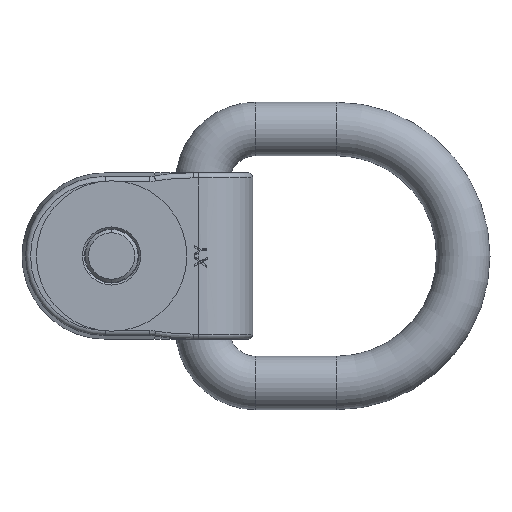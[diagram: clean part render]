
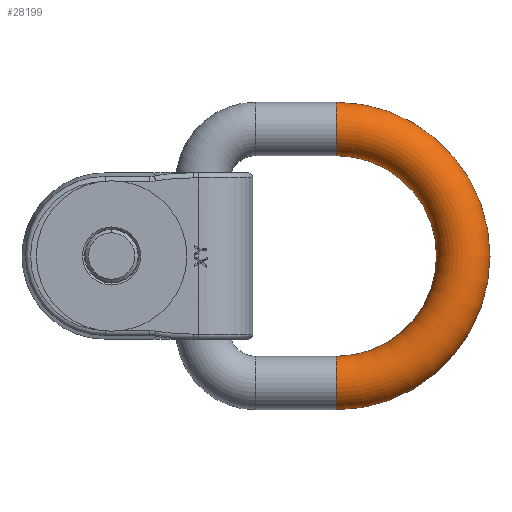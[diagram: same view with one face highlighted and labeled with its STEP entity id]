
A CAD part, front view. The second image highlights one B-rep face of the part: STEP entity #28199.
In plain terms, the highlighted toroidal (fillet/blend) face has major radius 38 mm and minor radius 8 mm.
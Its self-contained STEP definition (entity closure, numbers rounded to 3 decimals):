
#511 = DIRECTION ( 'NONE',  ( -1., 0., 0. ) ) ;
#927 = VERTEX_POINT ( 'NONE', #24760 ) ;
#1195 = CARTESIAN_POINT ( 'NONE',  ( 38., 32., 0. ) ) ;
#1374 = CIRCLE ( 'NONE', #11166, 8. ) ;
#3759 = CARTESIAN_POINT ( 'NONE',  ( 46., 32., 0. ) ) ;
#5263 = DIRECTION ( 'NONE',  ( 0., 0., -1. ) ) ;
#5721 = AXIS2_PLACEMENT_3D ( 'NONE', #39615, #5263, #11763 ) ;
#7923 = CARTESIAN_POINT ( 'NONE',  ( -38., 32., 0. ) ) ;
#8202 = EDGE_CURVE ( 'NONE', #38669, #927, #18058, .T. ) ;
#10727 = DIRECTION ( 'NONE',  ( 0., 0., -1. ) ) ;
#11166 = AXIS2_PLACEMENT_3D ( 'NONE', #1195, #23573, #26643 ) ;
#11763 = DIRECTION ( 'NONE',  ( -1., 0., 0. ) ) ;
#12144 = CARTESIAN_POINT ( 'NONE',  ( 0., 32., 0. ) ) ;
#13470 = ORIENTED_EDGE ( 'NONE', *, *, #28999, .F. ) ;
#14290 = CARTESIAN_POINT ( 'NONE',  ( -30., 32., 0. ) ) ;
#16368 = VERTEX_POINT ( 'NONE', #3759 ) ;
#17675 = DIRECTION ( 'NONE',  ( 0., -1., 0. ) ) ;
#18058 = CIRCLE ( 'NONE', #5721, 30. ) ;
#18260 = ORIENTED_EDGE ( 'NONE', *, *, #8202, .T. ) ;
#21378 = ORIENTED_EDGE ( 'NONE', *, *, #36042, .F. ) ;
#21490 = AXIS2_PLACEMENT_3D ( 'NONE', #12144, #40194, #511 ) ;
#23573 = DIRECTION ( 'NONE',  ( 0., 1., 0. ) ) ;
#24760 = CARTESIAN_POINT ( 'NONE',  ( 30., 32., 0. ) ) ;
#25406 = EDGE_LOOP ( 'NONE', ( #21378, #13470, #18260, #39822 ) ) ;
#25424 = CIRCLE ( 'NONE', #21490, 46. ) ;
#26518 = VERTEX_POINT ( 'NONE', #34835 ) ;
#26643 = DIRECTION ( 'NONE',  ( 0., 0., -1. ) ) ;
#26943 = EDGE_CURVE ( 'NONE', #927, #16368, #1374, .T. ) ;
#27016 = DIRECTION ( 'NONE',  ( 0., 0., -1. ) ) ;
#28199 = ADVANCED_FACE ( 'NONE', ( #35339 ), #33172, .T. ) ;
#28999 = EDGE_CURVE ( 'NONE', #38669, #26518, #29302, .T. ) ;
#29219 = CARTESIAN_POINT ( 'NONE',  ( 0., 32., 0. ) ) ;
#29302 = CIRCLE ( 'NONE', #39666, 8. ) ;
#33172 = TOROIDAL_SURFACE ( 'NONE', #35203, 38., 8. ) ;
#34835 = CARTESIAN_POINT ( 'NONE',  ( -46., 32., 0. ) ) ;
#35203 = AXIS2_PLACEMENT_3D ( 'NONE', #29219, #10727, #35529 ) ;
#35339 = FACE_OUTER_BOUND ( 'NONE', #25406, .T. ) ;
#35529 = DIRECTION ( 'NONE',  ( -1., 0., 0. ) ) ;
#36042 = EDGE_CURVE ( 'NONE', #26518, #16368, #25424, .T. ) ;
#38669 = VERTEX_POINT ( 'NONE', #14290 ) ;
#39615 = CARTESIAN_POINT ( 'NONE',  ( 0., 32., 0. ) ) ;
#39666 = AXIS2_PLACEMENT_3D ( 'NONE', #7923, #17675, #27016 ) ;
#39822 = ORIENTED_EDGE ( 'NONE', *, *, #26943, .T. ) ;
#40194 = DIRECTION ( 'NONE',  ( 0., 0., -1. ) ) ;
